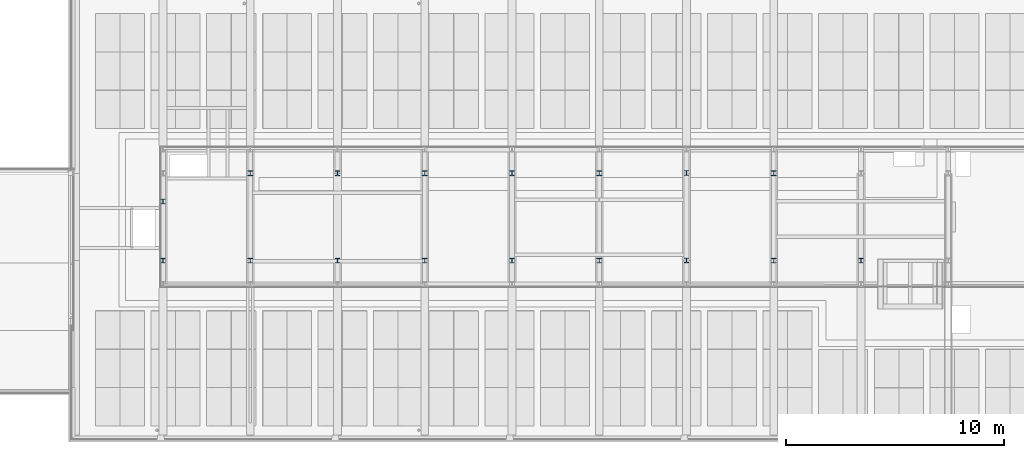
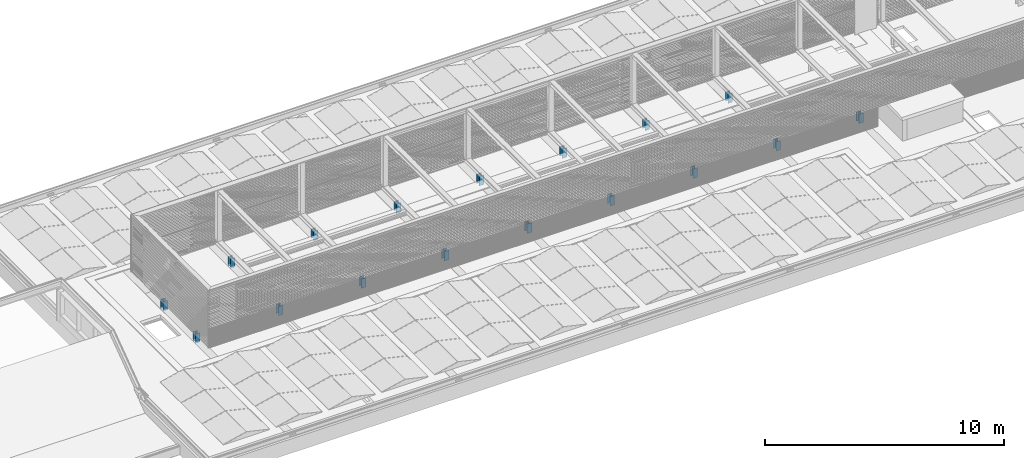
# One storey, part 3 of 63: 17 columns.
"""IFC2X3 building model written with IfcOpenShell, lengths in millimetres."""

from ifc_helpers import new_model, entity, si_unit, converted_unit, derived_unit, money_unit, direction, frame, origin_with_axes, place, context, subcontext, project, spatial, faceted_brep, material, type_object, element, save


model = new_model("IFC2X3")

# Units and contexts
model_context = context("Model", 3, precision=0.01, world=origin_with_axes(), true_north=direction((0.0, 1.0)))
body_context = subcontext(model_context, "Body", "Model", "MODEL_VIEW")
ifc_project = project(units=[si_unit("LENGTHUNIT", "METRE", prefix="MILLI"), si_unit("AREAUNIT", "SQUARE_METRE"), si_unit("VOLUMEUNIT", "CUBIC_METRE"), converted_unit("PLANEANGLEUNIT", "DEGREE", entity("IfcPlaneAngleMeasure", 0.0174532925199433), si_unit("PLANEANGLEUNIT", "RADIAN"), dimensions=[0, 0, 0, 0, 0, 0, 0]), money_unit("EUR"), converted_unit("TIMEUNIT", "Year", entity("IfcTimeMeasure", 31557600.0), si_unit("TIMEUNIT", "SECOND"), dimensions=[0, 0, 1, 0, 0, 0, 0]), si_unit("MASSUNIT", "GRAM", prefix="KILO"), si_unit("THERMODYNAMICTEMPERATUREUNIT", "DEGREE_CELSIUS"), si_unit("LUMINOUSINTENSITYUNIT", "LUMEN"), si_unit("ENERGYUNIT", "JOULE", prefix="MEGA"), derived_unit("THERMALCONDUCTANCEUNIT", [(si_unit("POWERUNIT", "WATT"), 1), (si_unit("LENGTHUNIT", "METRE"), -1), (si_unit("THERMODYNAMICTEMPERATUREUNIT", "KELVIN"), -1)]), derived_unit("SPECIFICHEATCAPACITYUNIT", [(si_unit("ENERGYUNIT", "JOULE"), 1), (si_unit("MASSUNIT", "GRAM", prefix="KILO"), -1), (si_unit("THERMODYNAMICTEMPERATUREUNIT", "KELVIN"), -1)]), derived_unit("MASSDENSITYUNIT", [(si_unit("MASSUNIT", "GRAM", prefix="KILO"), 1), (si_unit("VOLUMEUNIT", "CUBIC_METRE"), -1)])], contexts=[model_context])

# Site, building, storey
site_placement = place(None, origin_with_axes())
site = spatial("IfcSite", under=ifc_project, at=site_placement, Name="<site naam>", CompositionType="ELEMENT")
building_placement = place(site_placement, origin_with_axes())
building = spatial("IfcBuilding", under=site, at=building_placement, Name="<Naam gebouw>", CompositionType="ELEMENT")
storey_placement = place(building_placement, frame((0.0, 0.0, 12770.0), z_axis=(0.0, 0.0, 1.0), x_axis=(1.0, 0.0, 0.0)))
storey = spatial("IfcBuildingStorey", under=building, at=storey_placement, Name="04 4e verdieping", CompositionType="ELEMENT", Elevation=12770.0)

# Columns
ifc_material = material(Name="staal C")
column_type = type_object("IfcColumnType", Name="HEB220 220 x 220", PredefinedType="COLUMN")
for number, where, z_axis, x_axis, name in (
    (1, (28000.00000000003, 12000.00000000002, -134.6146107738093), (0.0, 0.0, 1.0), (1.0, 0.0, 0.0), "28_Kolom_HEB220"),
    (2, (28000.00000000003, 7994.453850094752, -134.6146107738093), (0.0, 0.0, 1.0), (1.0, 0.0, 0.0), "28_Kolom_HEB220"),
    (3, (23999.9999721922, 12000.00000000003, -134.6146107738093), (0.0, 0.0, 1.0), (1.0, 0.0, 0.0), "28_Kolom_HEB220"),
    (4, (23999.9999721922, 7994.453850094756, -134.6146107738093), (0.0, 0.0, 1.0), (1.0, 0.0, 0.0), "28_Kolom_HEB220"),
    (5, (35999.99996569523, 12000.00000000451, -134.6146107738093), (0.0, 0.0, 1.0), (1.0, 0.0, 0.0), "28_Kolom_HEB220"),
    (6, (35999.99996569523, 7994.453850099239, -134.6146107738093), (0.0, 0.0, 1.0), (1.0, 0.0, 0.0), "28_Kolom_HEB220"),
    (7, (31999.99972515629, 12000.00000000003, -134.6146107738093), (0.0, 0.0, 1.0), (1.0, 0.0, 0.0), "28_Kolom_HEB220"),
    (8, (31999.99972515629, 7994.453850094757, -134.6146107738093), (0.0, 0.0, 1.0), (1.0, 0.0, 0.0), "28_Kolom_HEB220"),
    (9, (20000.00000000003, 12000.00000000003, -134.6146107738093), (0.0, 0.0, 1.0), (1.0, 0.0, 0.0), "28_Kolom_HEB220"),
    (10, (20000.00000000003, 7994.453850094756, -134.6146107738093), (0.0, 0.0, 1.0), (1.0, 0.0, 0.0), "28_Kolom_HEB220"),
):
    element("IfcColumn", number, at=place(storey_placement, frame(where, z_axis=z_axis, x_axis=x_axis)), inside=storey, type_object=column_type, material=ifc_material, Name=name, ObjectType="COLUMN", context=body_context, shape_type="Brep", body=[
        faceted_brep([(-109.9999999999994, 115.5000000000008, 474.266043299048), (-109.9999999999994, 115.5000000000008, 0.0), (-109.9999999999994, 99.50000000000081, 0.0), (-109.9999999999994, 99.50000000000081, 474.266043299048), (109.9999999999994, 115.5000000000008, 474.266043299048), (109.9999999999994, 115.5000000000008, 0.0), (109.9999999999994, 99.50000000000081, 0.0), (4.750000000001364, 99.50000000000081, 0.0), (4.750000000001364, -88.4999999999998, 0.0), (109.9999999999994, -88.4999999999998, 0.0), (109.9999999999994, -104.4999999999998, 0.0), (-109.9999999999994, -104.4999999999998, 0.0), (-109.9999999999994, -88.4999999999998, 0.0), (-4.750000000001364, -88.4999999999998, 0.0), (-4.750000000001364, 99.50000000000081, 0.0), (-4.750000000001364, 99.50000000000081, 474.266043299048), (-4.750000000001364, -88.4999999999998, 474.266043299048), (-109.9999999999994, -88.4999999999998, 474.266043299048), (-109.9999999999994, -104.4999999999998, 474.266043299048), (109.9999999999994, -104.4999999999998, 474.266043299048), (109.9999999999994, -88.4999999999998, 474.266043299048), (4.750000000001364, -88.4999999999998, 474.266043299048), (4.750000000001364, 99.50000000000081, 474.266043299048), (109.9999999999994, 99.50000000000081, 474.266043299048)], [[[0, 1, 2, 3]], [[4, 5, 1, 0]], [[2, 1, 5, 6, 7, 8, 9, 10, 11, 12, 13, 14]], [[3, 2, 14, 15]], [[4, 0, 3, 15, 16, 17, 18, 19, 20, 21, 22, 23]], [[23, 6, 5, 4]], [[22, 7, 6, 23]], [[21, 8, 7, 22]], [[20, 9, 8, 21]], [[19, 10, 9, 20]], [[18, 11, 10, 19]], [[17, 12, 11, 18]], [[16, 13, 12, 17]], [[15, 14, 13, 16]]]),
    ])
column_1_placement = place(storey_placement, frame((16000.00000000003, 7994.453850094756, -134.6146107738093), z_axis=(0.0, 0.0, 1.0), x_axis=(1.0, 0.0, 0.0)))
element("IfcColumn", 11, at=column_1_placement, inside=storey, type_object=column_type, material=ifc_material, Name="28_Kolom_HEB220", ObjectType="COLUMN", context=body_context, shape_type="Brep", body=[
    faceted_brep([(-109.9999999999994, 115.5000000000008, 474.266043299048), (-109.9999999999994, 115.5000000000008, 0.0), (-109.9999999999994, 99.50000000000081, 0.0), (-109.9999999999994, 99.50000000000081, 474.266043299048), (109.9999999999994, 115.5000000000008, 474.266043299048), (109.9999999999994, 115.5000000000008, 0.0), (109.9999999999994, 99.50000000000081, 0.0), (4.750000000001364, 99.50000000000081, 0.0), (4.750000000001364, -88.4999999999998, 0.0), (109.9999999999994, -88.4999999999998, 0.0), (109.9999999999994, -104.4999999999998, 0.0), (-109.9999999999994, -104.4999999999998, 0.0), (-109.9999999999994, -88.4999999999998, 0.0), (-4.749999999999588, -88.4999999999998, 0.0), (-4.749999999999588, 99.50000000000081, 0.0), (-4.749999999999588, 99.50000000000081, 474.266043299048), (-4.749999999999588, -88.4999999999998, 474.266043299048), (-109.9999999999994, -88.4999999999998, 474.266043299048), (-109.9999999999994, -104.4999999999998, 474.266043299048), (109.9999999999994, -104.4999999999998, 474.266043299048), (109.9999999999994, -88.4999999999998, 474.266043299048), (4.750000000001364, -88.4999999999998, 474.266043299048), (4.750000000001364, 99.50000000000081, 474.266043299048), (109.9999999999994, 99.50000000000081, 474.266043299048)], [[[0, 1, 2, 3]], [[4, 5, 1, 0]], [[2, 1, 5, 6, 7, 8, 9, 10, 11, 12, 13, 14]], [[3, 2, 14, 15]], [[4, 0, 3, 15, 16, 17, 18, 19, 20, 21, 22, 23]], [[23, 6, 5, 4]], [[22, 7, 6, 23]], [[21, 8, 7, 22]], [[20, 9, 8, 21]], [[19, 10, 9, 20]], [[18, 11, 10, 19]], [[17, 12, 11, 18]], [[16, 13, 12, 17]], [[15, 14, 13, 16]]]),
])
for number, where, z_axis, x_axis, name in (
    (12, (40000.00000000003, 8002.310637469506, -134.6146107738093), (0.0, 0.0, 1.0), (1.0, 0.0, 0.0), "28_Kolom_HEB220"),
    (13, (40000.00000000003, 12007.85678737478, -134.6146107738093), (0.0, 0.0, 1.0), (1.0, 0.0, 0.0), "28_Kolom_HEB220"),
    (14, (44000.00000000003, 12000.00000000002, -134.6146107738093), (0.0, 0.0, 1.0), (1.0, 0.0, 0.0), "28_Kolom_HEB220"),
    (15, (44000.00000000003, 7994.453850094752, -134.6146107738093), (0.0, 0.0, 1.0), (1.0, 0.0, 0.0), "28_Kolom_HEB220"),
    (16, (48000.00000000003, 7994.453850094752, -134.6146107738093), (0.0, 0.0, 1.0), (1.0, 0.0, 0.0), "28_Kolom_HEB220"),
):
    element("IfcColumn", number, at=place(storey_placement, frame(where, z_axis=z_axis, x_axis=x_axis)), inside=storey, type_object=column_type, material=ifc_material, Name=name, ObjectType="COLUMN", context=body_context, shape_type="Brep", body=[
        faceted_brep([(-109.9999999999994, 115.5000000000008, 474.266043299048), (-109.9999999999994, 115.5000000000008, 0.0), (-109.9999999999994, 99.50000000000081, 0.0), (-109.9999999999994, 99.50000000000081, 474.266043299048), (109.9999999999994, 115.5000000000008, 474.266043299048), (109.9999999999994, 115.5000000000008, 0.0), (109.9999999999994, 99.50000000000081, 0.0), (4.750000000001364, 99.50000000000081, 0.0), (4.750000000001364, -88.4999999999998, 0.0), (109.9999999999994, -88.4999999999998, 0.0), (109.9999999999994, -104.4999999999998, 0.0), (-109.9999999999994, -104.4999999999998, 0.0), (-109.9999999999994, -88.4999999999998, 0.0), (-4.750000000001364, -88.4999999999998, 0.0), (-4.750000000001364, 99.50000000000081, 0.0), (-4.750000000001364, 99.50000000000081, 474.266043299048), (-4.750000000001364, -88.4999999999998, 474.266043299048), (-109.9999999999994, -88.4999999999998, 474.266043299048), (-109.9999999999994, -104.4999999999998, 474.266043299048), (109.9999999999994, -104.4999999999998, 474.266043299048), (109.9999999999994, -88.4999999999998, 474.266043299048), (4.750000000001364, -88.4999999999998, 474.266043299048), (4.750000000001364, 99.50000000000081, 474.266043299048), (109.9999999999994, 99.50000000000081, 474.266043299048)], [[[0, 1, 2, 3]], [[4, 5, 1, 0]], [[2, 1, 5, 6, 7, 8, 9, 10, 11, 12, 13, 14]], [[3, 2, 14, 15]], [[4, 0, 3, 15, 16, 17, 18, 19, 20, 21, 22, 23]], [[23, 6, 5, 4]], [[22, 7, 6, 23]], [[21, 8, 7, 22]], [[20, 9, 8, 21]], [[19, 10, 9, 20]], [[18, 11, 10, 19]], [[17, 12, 11, 18]], [[16, 13, 12, 17]], [[15, 14, 13, 16]]]),
    ])
column_2_placement = place(storey_placement, frame((16000.00000000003, 10704.17947463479, -134.6146107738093), z_axis=(0.0, 0.0, 1.0), x_axis=(1.0, 0.0, 0.0)))
element("IfcColumn", 17, at=column_2_placement, inside=storey, type_object=column_type, material=ifc_material, Name="28_Kolom_HEB220", ObjectType="COLUMN", context=body_context, shape_type="Brep", body=[
    faceted_brep([(-109.9999999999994, 115.5000000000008, 474.266043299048), (-109.9999999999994, 115.5000000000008, 0.0), (-109.9999999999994, 99.50000000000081, 0.0), (-109.9999999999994, 99.50000000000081, 474.266043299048), (109.9999999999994, 115.5000000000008, 474.266043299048), (109.9999999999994, 115.5000000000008, 0.0), (109.9999999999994, 99.50000000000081, 0.0), (4.750000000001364, 99.50000000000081, 0.0), (4.750000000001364, -88.4999999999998, 0.0), (109.9999999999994, -88.4999999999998, 0.0), (109.9999999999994, -104.4999999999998, 0.0), (-109.9999999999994, -104.4999999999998, 0.0), (-109.9999999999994, -88.4999999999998, 0.0), (-4.749999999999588, -88.4999999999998, 0.0), (-4.749999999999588, 99.50000000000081, 0.0), (-4.749999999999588, 99.50000000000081, 474.266043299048), (-4.749999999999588, -88.4999999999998, 474.266043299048), (-109.9999999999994, -88.4999999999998, 474.266043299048), (-109.9999999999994, -104.4999999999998, 474.266043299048), (109.9999999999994, -104.4999999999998, 474.266043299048), (109.9999999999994, -88.4999999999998, 474.266043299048), (4.750000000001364, -88.4999999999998, 474.266043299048), (4.750000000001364, 99.50000000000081, 474.266043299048), (109.9999999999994, 99.50000000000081, 474.266043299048)], [[[0, 1, 2, 3]], [[4, 5, 1, 0]], [[2, 1, 5, 6, 7, 8, 9, 10, 11, 12, 13, 14]], [[3, 2, 14, 15]], [[4, 0, 3, 15, 16, 17, 18, 19, 20, 21, 22, 23]], [[23, 6, 5, 4]], [[22, 7, 6, 23]], [[21, 8, 7, 22]], [[20, 9, 8, 21]], [[19, 10, 9, 20]], [[18, 11, 10, 19]], [[17, 12, 11, 18]], [[16, 13, 12, 17]], [[15, 14, 13, 16]]]),
])

save(model, "model.ifc")
